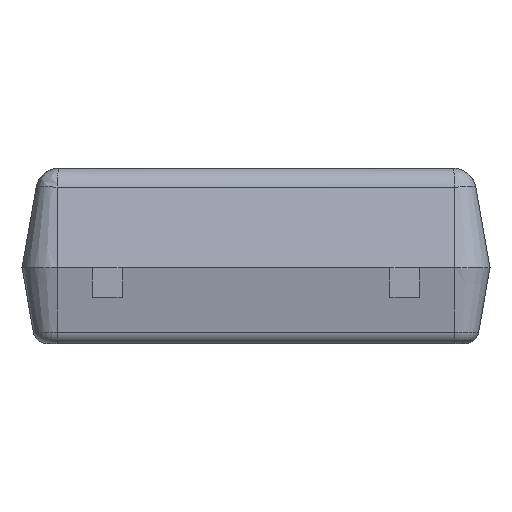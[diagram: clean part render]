
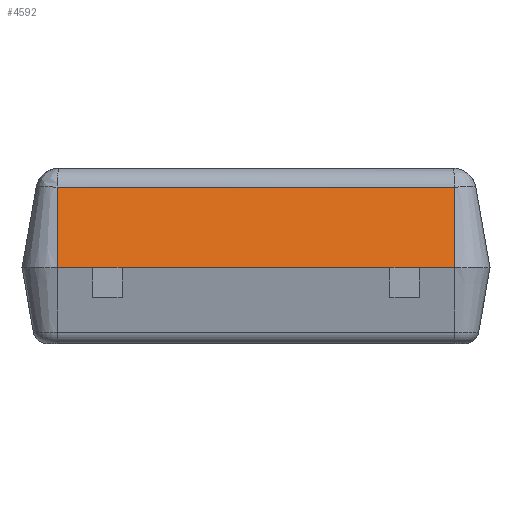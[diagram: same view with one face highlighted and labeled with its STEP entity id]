
A CAD part, front view. The second image highlights one B-rep face of the part: STEP entity #4592.
In plain terms, the highlighted planar face has unit normal (0, -0.985, 0.174).
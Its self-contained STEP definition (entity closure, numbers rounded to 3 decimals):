
#712 = ORIENTED_EDGE ( 'NONE', *, *, #2612, .T. ) ;
#795 = CARTESIAN_POINT ( 'NONE',  ( 8.654, -0.15, 14.095 ) ) ;
#863 = LINE ( 'NONE', #7882, #2689 ) ;
#960 = CARTESIAN_POINT ( 'NONE',  ( 5.559, -0.15, 14.095 ) ) ;
#1007 = DIRECTION ( 'NONE',  ( 0., 0.174, 0.985 ) ) ;
#1025 = ORIENTED_EDGE ( 'NONE', *, *, #5757, .F. ) ;
#1146 = DIRECTION ( 'NONE',  ( -1., 0., 0. ) ) ;
#1166 = VECTOR ( 'NONE', #7808, 1000. ) ;
#1433 = DIRECTION ( 'NONE',  ( 0., -0.174, -0.985 ) ) ;
#1513 = CARTESIAN_POINT ( 'NONE',  ( 8.959, -0.15, 14.095 ) ) ;
#1517 = CARTESIAN_POINT ( 'NONE',  ( 5.559, -0.15, 14.095 ) ) ;
#1548 = DIRECTION ( 'NONE',  ( 1., 0., 0. ) ) ;
#1605 = EDGE_CURVE ( 'NONE', #5799, #2505, #4366, .T. ) ;
#1757 = PLANE ( 'NONE',  #6345 ) ;
#1908 = CARTESIAN_POINT ( 'NONE',  ( 5.559, -0.15, 14.095 ) ) ;
#2295 = VECTOR ( 'NONE', #5950, 1000. ) ;
#2347 = LINE ( 'NONE', #3979, #7117 ) ;
#2440 = ORIENTED_EDGE ( 'NONE', *, *, #4562, .T. ) ;
#2505 = VERTEX_POINT ( 'NONE', #1908 ) ;
#2542 = ORIENTED_EDGE ( 'NONE', *, *, #1605, .T. ) ;
#2612 = EDGE_CURVE ( 'NONE', #5788, #5939, #4619, .T. ) ;
#2620 = VERTEX_POINT ( 'NONE', #4924 ) ;
#2689 = VECTOR ( 'NONE', #7337, 1000. ) ;
#2858 = CARTESIAN_POINT ( 'NONE',  ( 6.114, -0.15, 14.095 ) ) ;
#2943 = CARTESIAN_POINT ( 'NONE',  ( 5.559, -0.029, 14.78 ) ) ;
#2967 = CARTESIAN_POINT ( 'NONE',  ( 8.404, -0.15, 14.095 ) ) ;
#2986 = VERTEX_POINT ( 'NONE', #6362 ) ;
#3065 = ORIENTED_EDGE ( 'NONE', *, *, #4657, .F. ) ;
#3073 = ORIENTED_EDGE ( 'NONE', *, *, #7899, .F. ) ;
#3164 = ORIENTED_EDGE ( 'NONE', *, *, #5035, .T. ) ;
#3169 = VERTEX_POINT ( 'NONE', #1513 ) ;
#3431 = EDGE_CURVE ( 'NONE', #7707, #3169, #4285, .T. ) ;
#3794 = FACE_OUTER_BOUND ( 'NONE', #4879, .T. ) ;
#3979 = CARTESIAN_POINT ( 'NONE',  ( 8.959, -0.15, 14.095 ) ) ;
#4149 = ORIENTED_EDGE ( 'NONE', *, *, #3431, .T. ) ;
#4285 = LINE ( 'NONE', #4436, #2295 ) ;
#4366 = LINE ( 'NONE', #7044, #7268 ) ;
#4436 = CARTESIAN_POINT ( 'NONE',  ( 5.559, -0.15, 14.095 ) ) ;
#4562 = EDGE_CURVE ( 'NONE', #2620, #5799, #6833, .T. ) ;
#4592 = ADVANCED_FACE ( 'NONE', ( #3794 ), #1757, .T. ) ;
#4619 = LINE ( 'NONE', #960, #4755 ) ;
#4657 = EDGE_CURVE ( 'NONE', #5788, #2986, #863, .T. ) ;
#4755 = VECTOR ( 'NONE', #5101, 1000. ) ;
#4879 = EDGE_LOOP ( 'NONE', ( #3073, #2440, #2542, #3164, #3065, #712, #1025, #4149 ) ) ;
#4924 = CARTESIAN_POINT ( 'NONE',  ( 8.959, -0.029, 14.78 ) ) ;
#4941 = LINE ( 'NONE', #1517, #5218 ) ;
#5035 = EDGE_CURVE ( 'NONE', #2505, #2986, #4941, .T. ) ;
#5101 = DIRECTION ( 'NONE',  ( 1., 0., 0. ) ) ;
#5218 = VECTOR ( 'NONE', #1548, 1000. ) ;
#5295 = CARTESIAN_POINT ( 'NONE',  ( 8.959, -0.15, 14.095 ) ) ;
#5757 = EDGE_CURVE ( 'NONE', #7707, #5939, #7287, .T. ) ;
#5788 = VERTEX_POINT ( 'NONE', #2858 ) ;
#5799 = VERTEX_POINT ( 'NONE', #6549 ) ;
#5939 = VERTEX_POINT ( 'NONE', #2967 ) ;
#5950 = DIRECTION ( 'NONE',  ( 1., 0., 0. ) ) ;
#6345 = AXIS2_PLACEMENT_3D ( 'NONE', #7907, #7425, #1007 ) ;
#6362 = CARTESIAN_POINT ( 'NONE',  ( 5.864, -0.15, 14.095 ) ) ;
#6549 = CARTESIAN_POINT ( 'NONE',  ( 5.559, -0.029, 14.78 ) ) ;
#6833 = LINE ( 'NONE', #2943, #6930 ) ;
#6930 = VECTOR ( 'NONE', #1146, 1000. ) ;
#7044 = CARTESIAN_POINT ( 'NONE',  ( 5.559, -0.15, 14.095 ) ) ;
#7109 = DIRECTION ( 'NONE',  ( 0., -0.174, -0.985 ) ) ;
#7117 = VECTOR ( 'NONE', #1433, 1000. ) ;
#7268 = VECTOR ( 'NONE', #7109, 1000. ) ;
#7287 = LINE ( 'NONE', #5295, #1166 ) ;
#7337 = DIRECTION ( 'NONE',  ( -1., 0., 0. ) ) ;
#7425 = DIRECTION ( 'NONE',  ( 0., -0.985, 0.174 ) ) ;
#7707 = VERTEX_POINT ( 'NONE', #795 ) ;
#7808 = DIRECTION ( 'NONE',  ( -1., 0., 0. ) ) ;
#7882 = CARTESIAN_POINT ( 'NONE',  ( 8.959, -0.15, 14.095 ) ) ;
#7899 = EDGE_CURVE ( 'NONE', #2620, #3169, #2347, .T. ) ;
#7907 = CARTESIAN_POINT ( 'NONE',  ( 8.959, -0.15, 14.095 ) ) ;
